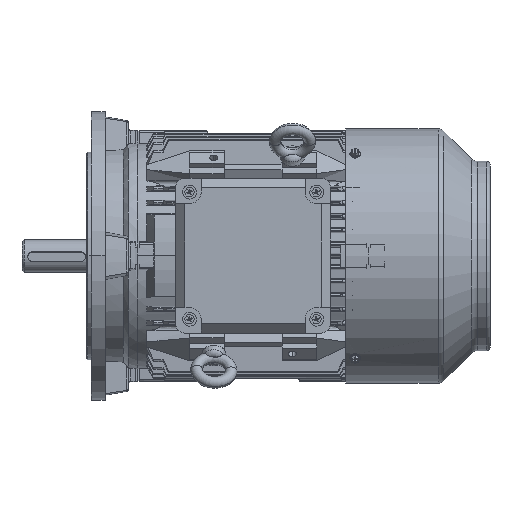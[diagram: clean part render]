
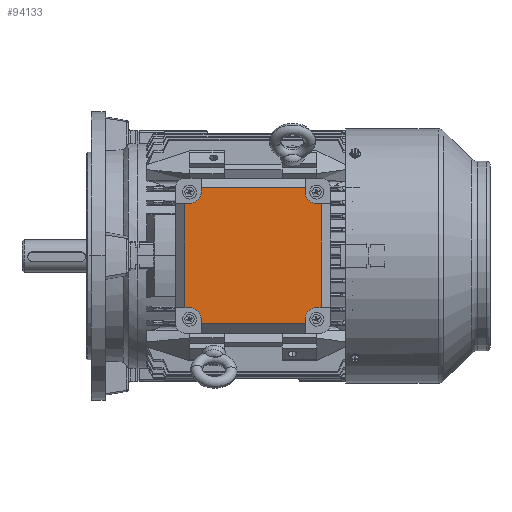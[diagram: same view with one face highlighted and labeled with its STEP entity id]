
A CAD part, top view. The second image highlights one B-rep face of the part: STEP entity #94133.
In plain terms, the highlighted planar face has unit normal (0, 0, 1).
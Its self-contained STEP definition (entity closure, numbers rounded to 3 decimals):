
#272 = EDGE_CURVE ( 'NONE', #104046, #116982, #4947, .T. ) ;
#1086 = CIRCLE ( 'NONE', #39215, 10. ) ;
#1527 = VERTEX_POINT ( 'NONE', #115059 ) ;
#2905 = CARTESIAN_POINT ( 'NONE',  ( 79.234, 58.904, 176.622 ) ) ;
#3419 = CARTESIAN_POINT ( 'NONE',  ( -24.764, -55.098, 176.622 ) ) ;
#3664 = AXIS2_PLACEMENT_3D ( 'NONE', #106488, #39160, #40566 ) ;
#3835 = VECTOR ( 'NONE', #138234, 1000. ) ;
#4116 = PLANE ( 'NONE',  #39957 ) ;
#4837 = LINE ( 'NONE', #16758, #60268 ) ;
#4947 = LINE ( 'NONE', #122910, #60101 ) ;
#5069 = DIRECTION ( 'NONE',  ( 0., -1., 0. ) ) ;
#5730 = CARTESIAN_POINT ( 'NONE',  ( 93.235, 48.904, 176.622 ) ) ;
#6013 = DIRECTION ( 'NONE',  ( 1., 0., 0. ) ) ;
#8719 = AXIS2_PLACEMENT_3D ( 'NONE', #48357, #134701, #50445 ) ;
#9261 = EDGE_CURVE ( 'NONE', #26314, #137213, #14882, .T. ) ;
#10348 = EDGE_CURVE ( 'NONE', #94149, #95016, #1086, .T. ) ;
#12729 = VERTEX_POINT ( 'NONE', #118716 ) ;
#12956 = CARTESIAN_POINT ( 'NONE',  ( 79.236, -51.096, 176.622 ) ) ;
#14143 = VERTEX_POINT ( 'NONE', #93188 ) ;
#14707 = LINE ( 'NONE', #99636, #72809 ) ;
#14882 = CIRCLE ( 'NONE', #3664, 10. ) ;
#14886 = LINE ( 'NONE', #121612, #131568 ) ;
#15043 = EDGE_CURVE ( 'NONE', #76810, #12729, #100267, .T. ) ;
#16270 = LINE ( 'NONE', #5730, #35981 ) ;
#16758 = CARTESIAN_POINT ( 'NONE',  ( -24.764, -41.098, 176.622 ) ) ;
#16905 = LINE ( 'NONE', #2905, #121930 ) ;
#18928 = LINE ( 'NONE', #85551, #3835 ) ;
#21468 = ORIENTED_EDGE ( 'NONE', *, *, #120120, .F. ) ;
#22607 = VERTEX_POINT ( 'NONE', #70205 ) ;
#24910 = ORIENTED_EDGE ( 'NONE', *, *, #79813, .F. ) ;
#25427 = DIRECTION ( 'NONE',  ( 1., 0., 0. ) ) ;
#26314 = VERTEX_POINT ( 'NONE', #109737 ) ;
#29164 = EDGE_CURVE ( 'NONE', #44441, #135053, #14886, .T. ) ;
#31405 = ORIENTED_EDGE ( 'NONE', *, *, #9261, .F. ) ;
#32100 = DIRECTION ( 'NONE',  ( -1., 0., 0. ) ) ;
#32519 = CARTESIAN_POINT ( 'NONE',  ( 79.234, 62.904, 176.622 ) ) ;
#33444 = EDGE_CURVE ( 'NONE', #76810, #26314, #16905, .T. ) ;
#35981 = VECTOR ( 'NONE', #91381, 1000. ) ;
#36603 = CARTESIAN_POINT ( 'NONE',  ( 89.236, -41.096, 176.622 ) ) ;
#37129 = EDGE_CURVE ( 'NONE', #120135, #94149, #112430, .T. ) ;
#37298 = ORIENTED_EDGE ( 'NONE', *, *, #87677, .F. ) ;
#39160 = DIRECTION ( 'NONE',  ( 0., 0., 1. ) ) ;
#39215 = AXIS2_PLACEMENT_3D ( 'NONE', #72180, #74242, #32100 ) ;
#39957 = AXIS2_PLACEMENT_3D ( 'NONE', #3419, #90416, #101646 ) ;
#40566 = DIRECTION ( 'NONE',  ( -1., 0., 0. ) ) ;
#40809 = VERTEX_POINT ( 'NONE', #48574 ) ;
#42106 = EDGE_CURVE ( 'NONE', #95016, #135053, #82981, .T. ) ;
#42880 = VECTOR ( 'NONE', #6013, 1000. ) ;
#44441 = VERTEX_POINT ( 'NONE', #128746 ) ;
#46936 = DIRECTION ( 'NONE',  ( -1., 0., 0. ) ) ;
#48357 = CARTESIAN_POINT ( 'NONE',  ( -20.766, 58.902, 176.622 ) ) ;
#48574 = CARTESIAN_POINT ( 'NONE',  ( -20.765, 48.902, 176.622 ) ) ;
#48719 = ORIENTED_EDGE ( 'NONE', *, *, #120162, .T. ) ;
#49027 = DIRECTION ( 'NONE',  ( 0., 0., 1. ) ) ;
#49898 = CARTESIAN_POINT ( 'NONE',  ( 89.235, 48.904, 176.622 ) ) ;
#50445 = DIRECTION ( 'NONE',  ( -1., 0., 0. ) ) ;
#53550 = CIRCLE ( 'NONE', #8719, 10. ) ;
#53612 = EDGE_CURVE ( 'NONE', #83299, #12729, #18928, .T. ) ;
#53840 = AXIS2_PLACEMENT_3D ( 'NONE', #81316, #49027, #68680 ) ;
#56738 = CARTESIAN_POINT ( 'NONE',  ( 89.236, -41.096, 176.622 ) ) ;
#58968 = DIRECTION ( 'NONE',  ( -1., 0., 0. ) ) ;
#60101 = VECTOR ( 'NONE', #58968, 1000. ) ;
#60264 = DIRECTION ( 'NONE',  ( 0., -1., 0. ) ) ;
#60268 = VECTOR ( 'NONE', #60264, 1000. ) ;
#60763 = LINE ( 'NONE', #69899, #42880 ) ;
#63759 = VECTOR ( 'NONE', #101175, 1000. ) ;
#66607 = FACE_OUTER_BOUND ( 'NONE', #117493, .T. ) ;
#67146 = CARTESIAN_POINT ( 'NONE',  ( -24.764, -41.098, 176.622 ) ) ;
#67470 = DIRECTION ( 'NONE',  ( 0., -1., 0. ) ) ;
#68680 = DIRECTION ( 'NONE',  ( -1., 0., 0. ) ) ;
#69899 = CARTESIAN_POINT ( 'NONE',  ( -20.765, 48.902, 176.622 ) ) ;
#70102 = CARTESIAN_POINT ( 'NONE',  ( 93.236, -41.096, 176.622 ) ) ;
#70205 = CARTESIAN_POINT ( 'NONE',  ( -10.764, -51.098, 176.622 ) ) ;
#71135 = ORIENTED_EDGE ( 'NONE', *, *, #15043, .T. ) ;
#71802 = ORIENTED_EDGE ( 'NONE', *, *, #42106, .F. ) ;
#72180 = CARTESIAN_POINT ( 'NONE',  ( 89.236, -51.096, 176.622 ) ) ;
#72809 = VECTOR ( 'NONE', #78607, 1000. ) ;
#72893 = ORIENTED_EDGE ( 'NONE', *, *, #75980, .F. ) ;
#74242 = DIRECTION ( 'NONE',  ( 0., 0., 1. ) ) ;
#75469 = VECTOR ( 'NONE', #120180, 1000. ) ;
#75980 = EDGE_CURVE ( 'NONE', #137213, #1527, #14707, .T. ) ;
#76810 = VERTEX_POINT ( 'NONE', #32519 ) ;
#78607 = DIRECTION ( 'NONE',  ( 1., 0., 0. ) ) ;
#79813 = EDGE_CURVE ( 'NONE', #44441, #22607, #101178, .T. ) ;
#80447 = ORIENTED_EDGE ( 'NONE', *, *, #121814, .F. ) ;
#81316 = CARTESIAN_POINT ( 'NONE',  ( -20.764, -51.098, 176.622 ) ) ;
#82293 = CARTESIAN_POINT ( 'NONE',  ( 79.236, -51.096, 176.622 ) ) ;
#82981 = LINE ( 'NONE', #82293, #131289 ) ;
#83299 = VERTEX_POINT ( 'NONE', #99705 ) ;
#85551 = CARTESIAN_POINT ( 'NONE',  ( -10.766, 58.902, 176.622 ) ) ;
#87677 = EDGE_CURVE ( 'NONE', #14143, #40809, #60763, .T. ) ;
#88374 = CARTESIAN_POINT ( 'NONE',  ( -10.766, 62.902, 176.622 ) ) ;
#90244 = ORIENTED_EDGE ( 'NONE', *, *, #37129, .F. ) ;
#90416 = DIRECTION ( 'NONE',  ( 0., 0., 1. ) ) ;
#91381 = DIRECTION ( 'NONE',  ( 0., 1., 0. ) ) ;
#93188 = CARTESIAN_POINT ( 'NONE',  ( -24.765, 48.902, 176.622 ) ) ;
#94133 = ADVANCED_FACE ( 'NONE', ( #66607 ), #4116, .T. ) ;
#94149 = VERTEX_POINT ( 'NONE', #56738 ) ;
#95016 = VERTEX_POINT ( 'NONE', #12956 ) ;
#97459 = EDGE_CURVE ( 'NONE', #120135, #1527, #16270, .T. ) ;
#99607 = VECTOR ( 'NONE', #46936, 1000. ) ;
#99636 = CARTESIAN_POINT ( 'NONE',  ( 89.235, 48.904, 176.622 ) ) ;
#99705 = CARTESIAN_POINT ( 'NONE',  ( -10.766, 58.902, 176.622 ) ) ;
#100267 = LINE ( 'NONE', #88374, #99607 ) ;
#101175 = DIRECTION ( 'NONE',  ( -1., 0., 0. ) ) ;
#101178 = LINE ( 'NONE', #121579, #75469 ) ;
#101646 = DIRECTION ( 'NONE',  ( 0., 1., 0. ) ) ;
#104046 = VERTEX_POINT ( 'NONE', #120450 ) ;
#106488 = CARTESIAN_POINT ( 'NONE',  ( 89.234, 58.904, 176.622 ) ) ;
#107857 = CARTESIAN_POINT ( 'NONE',  ( 79.236, -55.096, 176.622 ) ) ;
#109737 = CARTESIAN_POINT ( 'NONE',  ( 79.234, 58.904, 176.622 ) ) ;
#112430 = LINE ( 'NONE', #36603, #63759 ) ;
#113190 = ORIENTED_EDGE ( 'NONE', *, *, #272, .F. ) ;
#113610 = ORIENTED_EDGE ( 'NONE', *, *, #29164, .T. ) ;
#114411 = CIRCLE ( 'NONE', #53840, 10. ) ;
#115059 = CARTESIAN_POINT ( 'NONE',  ( 93.235, 48.904, 176.622 ) ) ;
#116982 = VERTEX_POINT ( 'NONE', #67146 ) ;
#117493 = EDGE_LOOP ( 'NONE', ( #123079, #71135, #136023, #21468, #37298, #48719, #113190, #80447, #24910, #113610, #71802, #122444, #90244, #121084, #72893, #31405 ) ) ;
#118716 = CARTESIAN_POINT ( 'NONE',  ( -10.766, 62.902, 176.622 ) ) ;
#120120 = EDGE_CURVE ( 'NONE', #40809, #83299, #53550, .T. ) ;
#120135 = VERTEX_POINT ( 'NONE', #70102 ) ;
#120162 = EDGE_CURVE ( 'NONE', #14143, #116982, #4837, .T. ) ;
#120180 = DIRECTION ( 'NONE',  ( 0., 1., 0. ) ) ;
#120450 = CARTESIAN_POINT ( 'NONE',  ( -20.764, -41.098, 176.622 ) ) ;
#121084 = ORIENTED_EDGE ( 'NONE', *, *, #97459, .T. ) ;
#121579 = CARTESIAN_POINT ( 'NONE',  ( -10.764, -51.098, 176.622 ) ) ;
#121612 = CARTESIAN_POINT ( 'NONE',  ( 79.236, -55.096, 176.622 ) ) ;
#121814 = EDGE_CURVE ( 'NONE', #22607, #104046, #114411, .T. ) ;
#121930 = VECTOR ( 'NONE', #67470, 1000. ) ;
#122444 = ORIENTED_EDGE ( 'NONE', *, *, #10348, .F. ) ;
#122910 = CARTESIAN_POINT ( 'NONE',  ( -20.764, -41.098, 176.622 ) ) ;
#123079 = ORIENTED_EDGE ( 'NONE', *, *, #33444, .F. ) ;
#128746 = CARTESIAN_POINT ( 'NONE',  ( -10.764, -55.098, 176.622 ) ) ;
#131289 = VECTOR ( 'NONE', #5069, 1000. ) ;
#131568 = VECTOR ( 'NONE', #25427, 1000. ) ;
#134701 = DIRECTION ( 'NONE',  ( 0., 0., 1. ) ) ;
#135053 = VERTEX_POINT ( 'NONE', #107857 ) ;
#136023 = ORIENTED_EDGE ( 'NONE', *, *, #53612, .F. ) ;
#137213 = VERTEX_POINT ( 'NONE', #49898 ) ;
#138234 = DIRECTION ( 'NONE',  ( 0., 1., 0. ) ) ;
